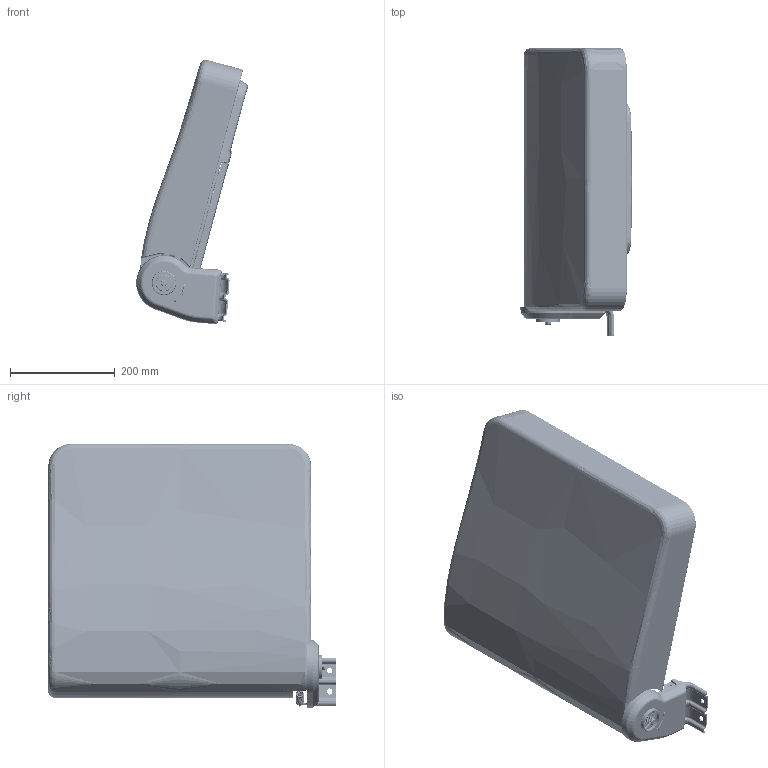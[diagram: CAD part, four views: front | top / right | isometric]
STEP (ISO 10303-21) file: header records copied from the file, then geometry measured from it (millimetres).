
FILE_DESCRIPTION(('CATIA V5 STEP Exchange'),'2;1');
FILE_NAME('C:\Users\wangyangguang\Desktop\统帅中间背泡沫总成数据（SLT0012905）.stp','2025-10-16T07:41:27+00:00',('none'),('none'),'CATIA Version 5 Release 20 GA (IN-10)','CATIA V5 STEP AP214','none');
FILE_SCHEMA(('AUTOMOTIVE_DESIGN { 1 0 10303 214 1 1 1 1 }'));
Products named in the file (4): PA222; 0011; 0022; 0033
Assembly tree (3 placements, depth 2):
  PA222
    0011
    0022
    0033
Bounding box: 212.81 x 549.95 x 503.81 mm (x, y, z)
Volume: 13629476.5 mm3; surface area: 2127942 mm2
Topology: 33 solids, 33 shells, 7504 faces, 19949 edges, 12474 vertices
Faces by surface type: plane 2769, bspline 2259, cylinder 1389, torus 482, cone 238, extrusion 126, revolution 124, sphere 117
Entity records: 455772 total; most frequent: CARTESIAN_POINT 297319, ORIENTED_EDGE 39552, DIRECTION 20588, EDGE_CURVE 19776, VERTEX_POINT 12470, VECTOR 8783, LINE 8657, B_SPLINE_CURVE_WITH_KNOTS 8001
